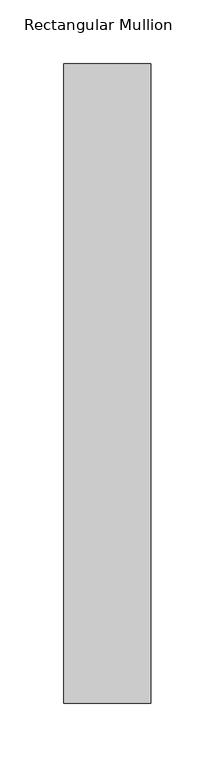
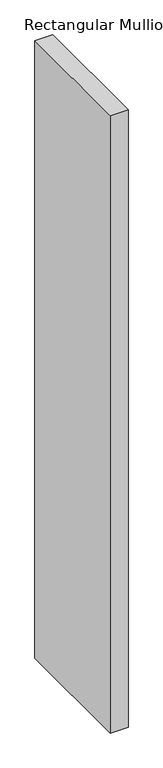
"""IFC4 building model written with IfcOpenShell, lengths in millimetres: member geometry, Rectangular Mullion : DucoSun Cubic Design louvre 500."""

from ifc_helpers import new_model, si_unit, frame, origin, place, context, project, spatial, polyline, outline, extrude, source, transform, mapped, element, save


def rectangular_mullion_c6d65d48(model_context):
    return source(origin(), model_context, "Body", "SweptSolid", [
        extrude(outline(polyline([(-68.0, 500.0), (0.0, 500.0), (0.0, 0.0), (-68.0, 0.0), (-68.0, 500.0)])), frame((0.0, 0.0, -2500.0), z_axis=(0.0, 0.0, 1.0), x_axis=(1.0, 0.0, 0.0)), (0.0, 0.0, 1.0), 2500.0),
    ])


if __name__ == "__main__":
    model = new_model("IFC4")
    model_context = context("Model", 3, world=origin())
    ifc_project = project(units=[si_unit("LENGTHUNIT", "METRE", prefix="MILLI")], contexts=[model_context])
    site = spatial("IfcSite", under=ifc_project)
    building = spatial("IfcBuilding", under=site)
    placement = place(None, origin())
    rectangular_mullion_shape = rectangular_mullion_c6d65d48(model_context)
    element("IfcMember", 1, ObjectType="Rectangular Mullion : DucoSun Cubic Design louvre 500", at=placement, inside=building, context=model_context, shape_type="MappedRepresentation", body=[
        mapped(rectangular_mullion_shape, transform((0.0, 0.0, 0.0), x_axis=(1.0, 0.0, 0.0), y_axis=(0.0, 1.0, 0.0), z_axis=(0.0, 0.0, 1.0))),
    ])
    save(model, "model.ifc")
